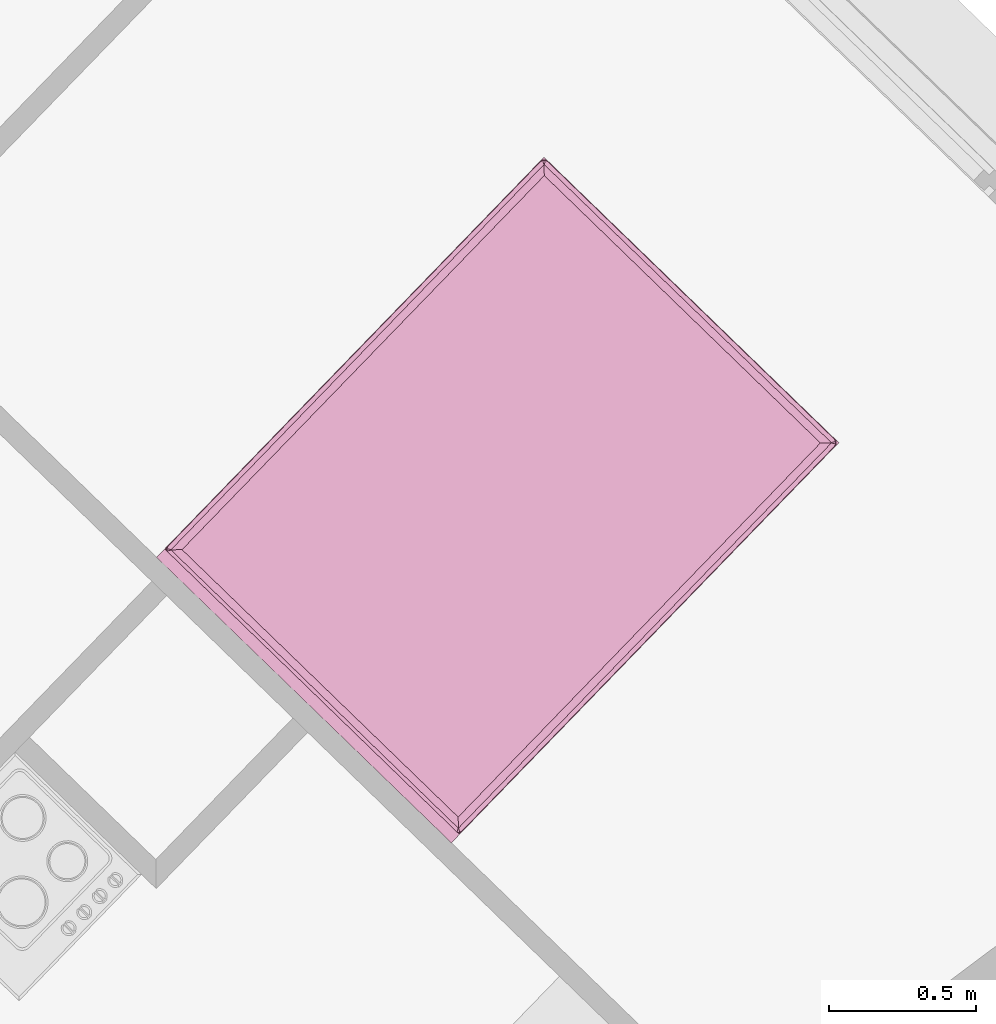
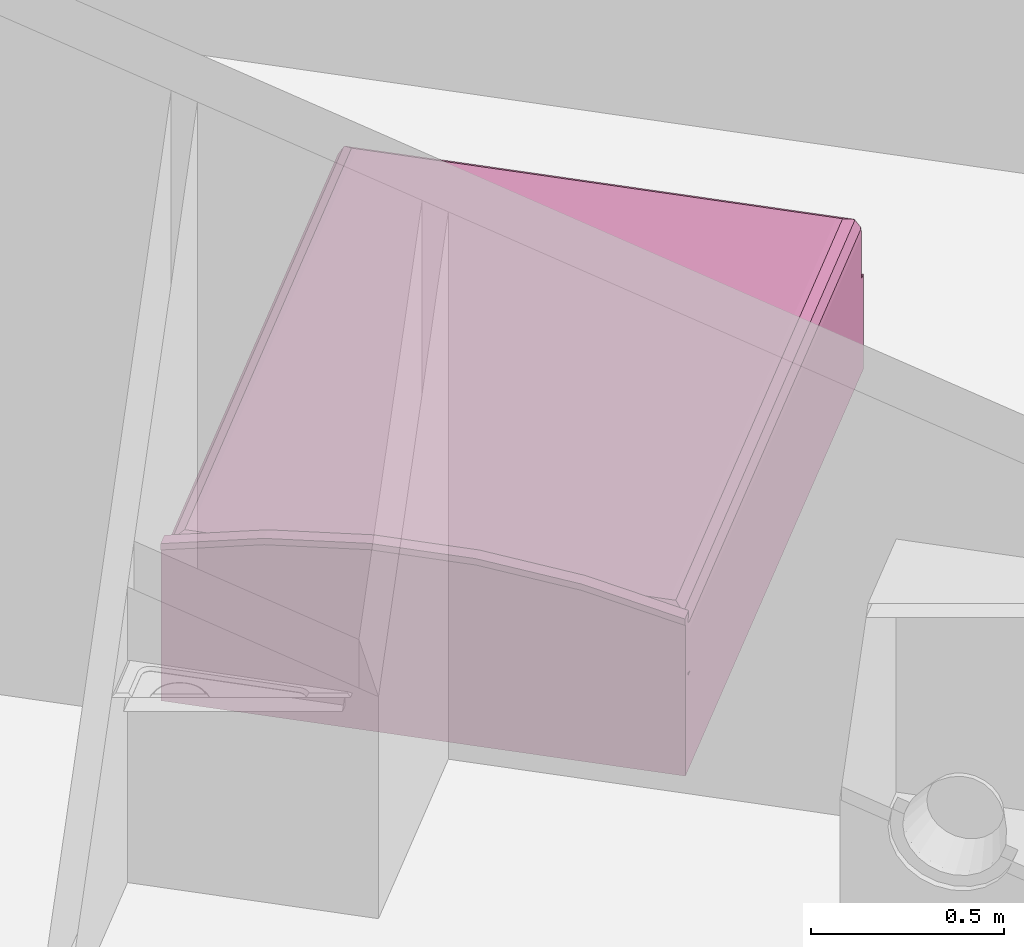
# One storey, part 99 of 121: 1 furnishing.
"""IFC2X3 building model written with IfcOpenShell, lengths in metres."""

from ifc_helpers import new_model, entity, si_unit, converted_unit, derived_unit, money_unit, direction, frame, origin_with_axes, place, context, subcontext, project, spatial, faceted_brep, source, transform, mapped, type_object, element, save


model = new_model("IFC2X3")

# Units and contexts
model_context = context("Model", 3, precision=1e-05, world=origin_with_axes(), true_north=direction((0.0, 1.0)))
body_context = subcontext(model_context, "Body", "Model", "MODEL_VIEW")
ifc_project = project(units=[si_unit("LENGTHUNIT", "METRE"), si_unit("AREAUNIT", "SQUARE_METRE"), si_unit("VOLUMEUNIT", "CUBIC_METRE"), converted_unit("PLANEANGLEUNIT", "DEGREE", entity("IfcPlaneAngleMeasure", 0.0174532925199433), si_unit("PLANEANGLEUNIT", "RADIAN"), dimensions=[0, 0, 0, 0, 0, 0, 0]), money_unit("CHF"), converted_unit("TIMEUNIT", "Year", entity("IfcTimeMeasure", 31557600.0), si_unit("TIMEUNIT", "SECOND"), dimensions=[0, 0, 1, 0, 0, 0, 0]), si_unit("MASSUNIT", "GRAM", prefix="KILO"), si_unit("THERMODYNAMICTEMPERATUREUNIT", "DEGREE_CELSIUS"), si_unit("LUMINOUSINTENSITYUNIT", "LUMEN"), si_unit("ENERGYUNIT", "JOULE", prefix="MEGA"), derived_unit("THERMALCONDUCTANCEUNIT", [(si_unit("POWERUNIT", "WATT"), 1), (si_unit("LENGTHUNIT", "METRE"), -1), (si_unit("THERMODYNAMICTEMPERATUREUNIT", "KELVIN"), -1)]), derived_unit("SPECIFICHEATCAPACITYUNIT", [(si_unit("ENERGYUNIT", "JOULE"), 1), (si_unit("MASSUNIT", "GRAM", prefix="KILO"), -1), (si_unit("THERMODYNAMICTEMPERATUREUNIT", "KELVIN"), -1)]), derived_unit("MASSDENSITYUNIT", [(si_unit("MASSUNIT", "GRAM", prefix="KILO"), 1), (si_unit("VOLUMEUNIT", "CUBIC_METRE"), -1)])], contexts=[model_context])

# Site, building, storey
site_placement = place(None, origin_with_axes())
site = spatial("IfcSite", under=ifc_project, at=site_placement, Name="Site", CompositionType="ELEMENT")
building_placement = place(site_placement, origin_with_axes())
building = spatial("IfcBuilding", under=site, at=building_placement, Name="Bâtiment", CompositionType="ELEMENT")
storey_placement = place(building_placement, frame((0.0, 0.0, 2.75), z_axis=(0.0, 0.0, 1.0), x_axis=(1.0, 0.0, 0.0)))
storey = spatial("IfcBuildingStorey", under=building, at=storey_placement, Name="Etage 1", CompositionType="ELEMENT", Elevation=2.75)

# Furnishing
furnishing_element_type = type_object("IfcFurnishingElementType", Name="Lit double 01")
shared_shape = source(origin_with_axes(), body_context, "Body", "Brep", [
    faceted_brep([(0.0, 1.895, 0.0), (1.4, 1.895, 0.0), (1.4, 1.865, 0.0), (0.0, 1.865, 0.0), (0.0, 1.895, 0.48), (0.276362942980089, 1.895, 0.5438448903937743), (0.558179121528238, 1.895, 0.5759741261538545), (0.8418208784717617, 1.895, 0.5759741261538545), (1.123637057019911, 1.895, 0.5438448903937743), (1.4, 1.895, 0.48), (1.4, 1.895, 0.4799), (1.4, 1.865, 0.4799), (1.4, 1.865, 0.48), (1.123637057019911, 1.865, 0.5438448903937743), (0.8418208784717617, 1.865, 0.5759741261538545), (0.558179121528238, 1.865, 0.5759741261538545), (0.276362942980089, 1.865, 0.5438448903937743), (0.0, 1.865, 0.48)], [[[0, 1, 2, 3]], [[0, 4, 5, 6, 7, 8, 9, 10, 1]], [[1, 10, 11, 2]], [[3, 2, 11, 12, 13, 14, 15, 16, 17]], [[4, 0, 3, 17]], [[5, 4, 17, 16]], [[6, 5, 16, 15]], [[7, 6, 15, 14]], [[8, 7, 14, 13]], [[9, 8, 13, 12]], [[10, 9, 12, 11]]]),
    faceted_brep([(1.4, 1.9, 0.48), (1.399999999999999, 1.9, 0.4999999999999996), (1.399999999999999, 1.86, 0.4999999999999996), (1.4, 1.86, 0.48), (1.123637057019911, 1.9, 0.5438448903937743), (0.8418208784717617, 1.9, 0.5759741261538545), (0.558179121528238, 1.9, 0.5759741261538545), (0.276362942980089, 1.9, 0.5438448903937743), (0.0, 1.9, 0.48), (0.0, 1.9, 0.4999), (0.0, 1.9, 0.5), (0.276362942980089, 1.9, 0.5638448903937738), (0.5581791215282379, 1.9, 0.5959741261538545), (0.8418208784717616, 1.9, 0.5959741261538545), (1.123637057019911, 1.9, 0.5638448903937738), (1.123637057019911, 1.86, 0.5638448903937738), (0.8418208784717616, 1.86, 0.5959741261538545), (0.5581791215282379, 1.86, 0.5959741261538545), (0.276362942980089, 1.86, 0.5638448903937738), (0.0, 1.86, 0.5), (0.0, 1.86, 0.4999), (0.0, 1.86, 0.48), (0.276362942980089, 1.86, 0.5438448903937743), (0.558179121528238, 1.86, 0.5759741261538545), (0.8418208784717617, 1.86, 0.5759741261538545), (1.123637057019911, 1.86, 0.5438448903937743)], [[[0, 1, 2, 3]], [[0, 4, 5, 6, 7, 8, 9, 10, 11, 12, 13, 14, 1]], [[1, 14, 15, 2]], [[3, 2, 15, 16, 17, 18, 19, 20, 21, 22, 23, 24, 25]], [[4, 0, 3, 25]], [[5, 4, 25, 24]], [[6, 5, 24, 23]], [[7, 6, 23, 22]], [[8, 7, 22, 21]], [[9, 8, 21, 20]], [[10, 9, 20, 19]], [[11, 10, 19, 18]], [[12, 11, 18, 17]], [[13, 12, 17, 16]], [[14, 13, 16, 15]]]),
    faceted_brep([(1.4, 0.0, 0.0), (0.0, 0.0, 0.0), (0.0, 1.865, 0.0), (1.4, 1.865, 0.0), (1.4, 0.0, 0.3), (0.0, 0.0, 0.3), (0.0, 1.865, 0.3), (1.4, 1.865, 0.3)], [[[0, 1, 2, 3]], [[1, 0, 4, 5]], [[2, 1, 5, 6]], [[3, 2, 6, 7]], [[0, 3, 7, 4]], [[5, 4, 7, 6]]]),
    faceted_brep([(0.0, 0.02, 0.43), (0.0, 1.845, 0.43), (0.002679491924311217, 1.855, 0.43), (0.009999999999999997, 1.862320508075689, 0.43), (0.02, 1.865, 0.43), (1.38, 1.865, 0.43), (1.39, 1.862320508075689, 0.43), (1.397320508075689, 1.855, 0.43), (1.4, 1.845, 0.43), (1.4, 0.02, 0.43), (1.397320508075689, 0.009999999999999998, 0.43), (1.39, 0.002679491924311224, 0.43), (1.38, 0.0, 0.43), (0.01999999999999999, 0.0, 0.43), (0.009999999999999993, 0.002679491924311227, 0.43), (0.002679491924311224, 0.01, 0.43), (-3.895163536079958e-10, 0.02000000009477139, 0.44), (-3.895163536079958e-10, 1.845000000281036, 0.44), (0.002679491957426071, 1.855000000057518, 0.44), (0.0100000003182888, 1.862320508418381, 0.44), (0.02000000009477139, 1.864999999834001, 0.44), (1.380000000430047, 1.864999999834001, 0.44), (1.39000000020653, 1.862320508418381, 0.44), (1.39732050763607, 1.855000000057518, 0.44), (1.399999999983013, 1.845000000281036, 0.44), (1.399999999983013, 0.02000000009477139, 0.44), (1.39732050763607, 0.0100000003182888, 0.44), (1.39000000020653, 0.002679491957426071, 0.44), (1.380000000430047, -3.895163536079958e-10, 0.44), (0.02000000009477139, -3.895163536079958e-10, 0.44), (0.0100000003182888, 0.002679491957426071, 0.44), (0.002679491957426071, 0.0100000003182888, 0.44), (0.002044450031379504, 0.02026915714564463, 0.4555291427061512), (0.002044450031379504, 1.844730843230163, 0.4555291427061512), (0.004512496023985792, 1.853941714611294, 0.4555291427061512), (0.01105828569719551, 1.860487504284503, 0.4555291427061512), (0.02026915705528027, 1.862955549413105, 0.4555291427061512), (1.379730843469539, 1.862955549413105, 0.4555291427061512), (1.388941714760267, 1.860487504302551, 0.4555291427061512), (1.395487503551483, 1.853941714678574, 0.4555291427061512), (1.397955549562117, 1.844730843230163, 0.4555291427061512), (1.397955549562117, 0.02026915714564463, 0.4555291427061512), (1.395487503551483, 0.01105828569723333, 0.4555291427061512), (1.388941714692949, 0.004512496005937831, 0.4555291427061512), (1.379730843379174, 0.002044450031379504, 0.4555291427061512), (0.02026915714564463, 0.002044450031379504, 0.4555291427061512), (0.01105828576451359, 0.004512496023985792, 0.4555291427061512), (0.004512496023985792, 0.01105828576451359, 0.4555291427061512), (0.01757359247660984, 0.02231360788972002, 0.4824264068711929), (0.01757359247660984, 1.842686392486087, 0.4824264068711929), (0.01843554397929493, 1.845903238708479, 0.4824264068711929), (0.01909676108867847, 1.846564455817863, 0.4824264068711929), (0.02231360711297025, 1.847426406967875, 0.4824264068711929), (1.377686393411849, 1.847426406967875, 0.4824264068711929), (1.380903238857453, 1.846564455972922, 0.4824264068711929), (1.381564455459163, 1.845903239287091, 0.4824264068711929), (1.382426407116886, 1.842686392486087, 0.4824264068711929), (1.382426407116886, 0.02231360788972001, 0.4824264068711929), (1.381564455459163, 0.01909676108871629, 0.4824264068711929), (1.380903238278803, 0.01843554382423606, 0.4824264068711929), (1.377686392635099, 0.01757359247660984, 0.4824264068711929), (0.02231360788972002, 0.01757359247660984, 0.4824264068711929), (0.01909676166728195, 0.01843554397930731, 0.4824264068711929), (0.01843554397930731, 0.01909676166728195, 0.4824264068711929), (0.02303225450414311, 0.02303225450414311, 0.4855779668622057), (0.04447085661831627, 0.04447085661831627, 0.4979555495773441), (0.04447085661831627, 1.820529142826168, 0.4979555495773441), (0.02303225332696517, 1.841967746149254, 0.48557796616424), (0.02000000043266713, 1.844999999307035, 0.4834338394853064), (1.35552914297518, 1.820529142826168, 0.4979555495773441), (1.376967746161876, 1.841967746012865, 0.4855779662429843), (1.380000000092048, 1.845000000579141, 0.4834338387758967), (1.35552914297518, 0.04447085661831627, 0.4979555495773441), (1.376967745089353, 0.02303225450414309, 0.4855779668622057), (1.379999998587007, 0.02000000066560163, 0.4834338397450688), (0.02000000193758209, 0.02000000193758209, 0.4834338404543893), (0.05999999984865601, 0.05999999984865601, 0.5000000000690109), (0.05999999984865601, 1.804999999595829, 0.5000000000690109), (1.33999999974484, 1.804999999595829, 0.5000000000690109), (1.33999999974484, 0.05999999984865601, 0.5000000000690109)], [[[0, 1, 2, 3, 4, 5, 6, 7, 8, 9, 10, 11, 12, 13, 14, 15]], [[1, 0, 16, 17]], [[2, 1, 17, 18]], [[3, 2, 18, 19]], [[4, 3, 19, 20]], [[5, 4, 20, 21]], [[6, 5, 21, 22]], [[7, 6, 22, 23]], [[8, 7, 23, 24]], [[9, 8, 24, 25]], [[10, 9, 25, 26]], [[11, 10, 26, 27]], [[12, 11, 27, 28]], [[13, 12, 28, 29]], [[14, 13, 29, 30]], [[15, 14, 30, 31]], [[0, 15, 31, 16]], [[17, 16, 32, 33]], [[18, 17, 33, 34]], [[19, 18, 34, 35]], [[20, 19, 35, 36]], [[21, 20, 36, 37]], [[22, 21, 37, 38]], [[23, 22, 38, 39]], [[24, 23, 39, 40]], [[25, 24, 40, 41]], [[26, 25, 41, 42]], [[27, 26, 42, 43]], [[28, 27, 43, 44]], [[29, 28, 44, 45]], [[30, 29, 45, 46]], [[31, 30, 46, 47]], [[16, 31, 47, 32]], [[33, 32, 48, 49]], [[34, 33, 49, 50]], [[35, 34, 50, 51]], [[36, 35, 51, 52]], [[37, 36, 52, 53]], [[38, 37, 53, 54]], [[39, 38, 54, 55]], [[40, 39, 55, 56]], [[41, 40, 56, 57]], [[42, 41, 57, 58]], [[43, 42, 58, 59]], [[44, 43, 59, 60]], [[45, 44, 60, 61]], [[46, 45, 61, 62]], [[47, 46, 62, 63]], [[32, 47, 63, 48]], [[49, 48, 64, 65, 66, 67]], [[50, 49, 67, 68]], [[51, 50, 68]], [[52, 51, 68, 67]], [[53, 52, 67, 66, 69, 70]], [[54, 53, 70, 71]], [[55, 54, 71]], [[56, 55, 71, 70]], [[57, 56, 70, 69, 72, 73]], [[58, 57, 73, 74]], [[59, 58, 74]], [[60, 59, 74, 73]], [[61, 60, 73, 72, 65, 64]], [[62, 61, 64, 75]], [[63, 62, 75]], [[48, 63, 75, 64]], [[66, 65, 76, 77]], [[69, 66, 77, 78]], [[72, 69, 78, 79]], [[65, 72, 79, 76]], [[78, 77, 76, 79]]]),
    faceted_brep([(0.0, 0.02000000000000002, 0.3099999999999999), (-3.895163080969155e-10, 0.02000000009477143, 0.2999999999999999), (0.002679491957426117, 0.01000000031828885, 0.2999999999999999), (0.002679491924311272, 0.01000000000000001, 0.3099999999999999), (0.0, 1.845, 0.3099999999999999), (-3.895163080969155e-10, 1.845000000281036, 0.2999999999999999), (0.002679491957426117, 1.855000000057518, 0.2999999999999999), (0.01000000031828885, 1.862320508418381, 0.2999999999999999), (0.02000000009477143, 1.864999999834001, 0.2999999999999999), (1.380000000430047, 1.864999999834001, 0.2999999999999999), (1.39000000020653, 1.862320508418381, 0.2999999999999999), (1.39732050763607, 1.855000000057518, 0.2999999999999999), (1.399999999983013, 1.845000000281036, 0.2999999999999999), (1.399999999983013, 0.02000000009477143, 0.2999999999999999), (1.39732050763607, 0.01000000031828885, 0.2999999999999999), (1.39000000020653, 0.002679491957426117, 0.2999999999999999), (1.380000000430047, -3.895163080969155e-10, 0.2999999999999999), (0.02000000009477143, -3.895163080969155e-10, 0.2999999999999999), (0.01000000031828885, 0.002679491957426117, 0.2999999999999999), (0.01000000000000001, 0.002679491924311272, 0.3099999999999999), (0.02000000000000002, 0.0, 0.3099999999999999), (1.38, 0.0, 0.3099999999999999), (1.39, 0.002679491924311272, 0.3099999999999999), (1.397320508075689, 0.01000000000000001, 0.3099999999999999), (1.4, 0.02000000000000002, 0.3099999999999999), (1.4, 1.845, 0.3099999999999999), (1.397320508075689, 1.855, 0.3099999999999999), (1.39, 1.862320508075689, 0.3099999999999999), (1.38, 1.865, 0.3099999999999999), (0.02000000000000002, 1.865, 0.3099999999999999), (0.01000000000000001, 1.862320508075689, 0.3099999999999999), (0.002679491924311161, 1.855, 0.3099999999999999)], [[[0, 1, 2, 3]], [[1, 0, 4, 5]], [[2, 1, 5, 6, 7, 8, 9, 10, 11, 12, 13, 14, 15, 16, 17, 18]], [[3, 2, 18, 19]], [[3, 19, 20, 21, 22, 23, 24, 25, 26, 27, 28, 29, 30, 31, 4, 0]], [[5, 4, 31, 6]], [[6, 31, 30, 7]], [[7, 30, 29, 8]], [[8, 29, 28, 9]], [[27, 10, 9, 28]], [[10, 27, 26, 11]], [[11, 26, 25, 12]], [[24, 13, 12, 25]], [[23, 14, 13, 24]], [[22, 15, 14, 23]], [[21, 16, 15, 22]], [[20, 17, 16, 21]], [[18, 17, 20, 19]]]),
    faceted_brep([(0.0, 0.02, 0.3099999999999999), (0.002679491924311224, 0.01, 0.3099999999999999), (0.002679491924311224, 0.01, 0.4299999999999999), (0.0, 0.02, 0.4299999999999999), (0.0, 1.845, 0.3099999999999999), (0.002679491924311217, 1.855, 0.3099999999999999), (0.009999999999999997, 1.862320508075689, 0.3099999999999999), (0.02, 1.865, 0.3099999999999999), (1.38, 1.865, 0.3099999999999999), (1.39, 1.862320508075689, 0.3099999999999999), (1.397320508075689, 1.855, 0.3099999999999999), (1.4, 1.845, 0.3099999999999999), (1.4, 0.02, 0.3099999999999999), (1.397320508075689, 0.009999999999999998, 0.3099999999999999), (1.39, 0.002679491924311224, 0.3099999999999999), (1.38, 0.0, 0.3099999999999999), (0.01999999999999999, 0.0, 0.3099999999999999), (0.009999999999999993, 0.002679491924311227, 0.3099999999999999), (0.009999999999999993, 0.002679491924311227, 0.4299999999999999), (0.01999999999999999, 0.0, 0.4299999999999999), (1.38, 0.0, 0.4299999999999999), (1.39, 0.002679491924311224, 0.4299999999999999), (1.397320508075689, 0.009999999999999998, 0.4299999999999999), (1.4, 0.02, 0.4299999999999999), (1.4, 1.845, 0.4299999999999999), (1.397320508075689, 1.855, 0.4299999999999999), (1.39, 1.862320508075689, 0.4299999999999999), (1.38, 1.865, 0.4299999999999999), (0.02, 1.865, 0.4299999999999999), (0.009999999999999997, 1.862320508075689, 0.4299999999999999), (0.002679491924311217, 1.855, 0.4299999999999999), (0.0, 1.845, 0.4299999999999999)], [[[0, 1, 2, 3]], [[0, 4, 5, 6, 7, 8, 9, 10, 11, 12, 13, 14, 15, 16, 17, 1]], [[1, 17, 18, 2]], [[3, 2, 18, 19, 20, 21, 22, 23, 24, 25, 26, 27, 28, 29, 30, 31]], [[4, 0, 3, 31]], [[5, 4, 31, 30]], [[6, 5, 30, 29]], [[7, 6, 29, 28]], [[8, 7, 28, 27]], [[9, 8, 27, 26]], [[10, 9, 26, 25]], [[11, 10, 25, 24]], [[12, 11, 24, 23]], [[13, 12, 23, 22]], [[14, 13, 22, 21]], [[15, 14, 21, 20]], [[16, 15, 20, 19]], [[17, 16, 19, 18]]]),
])
furnishing_placement = place(storey_placement, frame((9536.670982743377, -1067.95832297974, 57.7), z_axis=(0.0, 0.0, 1.0), x_axis=(-0.7183833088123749, 0.6956474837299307, 0.0)))
element("IfcFurnishingElement", 1, at=furnishing_placement, inside=storey, type_object=furnishing_element_type, Name="Obj.-002", context=body_context, shape_type="MappedRepresentation", body=[
    mapped(shared_shape, transform((0.0, 0.0, 0.0))),
])

save(model, "model.ifc")
